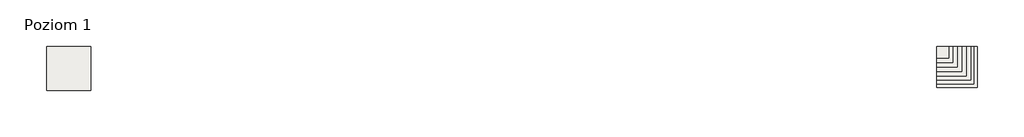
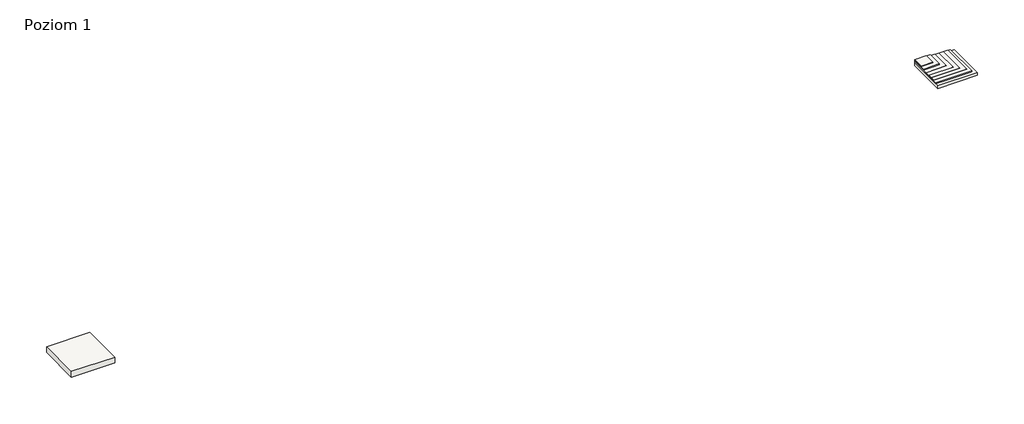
# One storey: 2 roofs.
"""IFC4 building model written with IfcOpenShell, lengths in millimetres."""

from ifc_helpers import new_model, si_unit, frame, origin, origin_with_axes, place, context, project, spatial, polyline, outline, extrude, element, save

model = new_model("IFC4")

# Units and contexts
model_context = context("Model", 3, world=origin())
ifc_project = project(units=[si_unit("LENGTHUNIT", "METRE", prefix="MILLI")], contexts=[model_context])

# Site, building, storey
site = spatial("IfcSite", under=ifc_project)
building = spatial("IfcBuilding", under=site)
storey = spatial("IfcBuildingStorey", under=building, Name="Poziom 1", Elevation=0.0)

# Roofs
placement = place(None, origin())
element("IfcRoof", 1, ObjectType="Dachy zielone w uprawie ekstensywnej – Atus CRICKET 20/1000 - układ tradycyjny", at=placement, inside=storey, context=model_context, shape_type="SweptSolid", body=[
    extrude(outline(polyline([(-16494.8444454, -525.5470033), (-13494.8444454, -525.5470033), (-13494.8444454, -3525.5470033), (-16494.8444454, -3525.5470033), (-16494.8444454, -525.5470033)])), origin_with_axes(), (0.0, 0.0, 1.0), 431.0),
])
element("IfcRoof", 2, ObjectType="Dachy zielone w uprawie ekstensywnej – Atus CRICKET 20/1000 - układ tradycyjny", at=placement, inside=storey, context=model_context, shape_type="SweptSolid", body=[
    extrude(outline(polyline([(43905.1555546, -525.5470033), (44705.1555546, -525.5470033), (44705.1555546, -1325.5470033), (43905.1555546, -1325.5470033), (43905.1555546, -525.5470033)])), frame((0.0, 0.0, 406.0), z_axis=(0.0, 0.0, 1.0), x_axis=(1.0, 0.0, 0.0)), (0.0, 0.0, 1.0), 25.0),
    extrude(outline(polyline([(43905.1555546, -525.5470033), (45005.1555546, -525.5470033), (45005.1555546, -1625.5470033), (43905.1555546, -1625.5470033), (43905.1555546, -525.5470033)])), frame((0.0, 0.0, 326.0), z_axis=(0.0, 0.0, 1.0), x_axis=(1.0, 0.0, 0.0)), (0.0, 0.0, 1.0), 80.0),
    extrude(outline(polyline([(43905.1555546, -525.5470033), (45305.1555546, -525.5470033), (45305.1555546, -1925.5470033), (43905.1555546, -1925.5470033), (43905.1555546, -525.5470033)])), frame((0.0, 0.0, 325.0), z_axis=(0.0, 0.0, 1.0), x_axis=(1.0, 0.0, 0.0)), (0.0, 0.0, 1.0), 1.0),
    extrude(outline(polyline([(43905.1555546, -525.5470033), (45605.1555546, -525.5470033), (45605.1555546, -2225.5470033), (43905.1555546, -2225.5470033), (43905.1555546, -525.5470033)])), frame((0.0, 0.0, 305.0), z_axis=(0.0, 0.0, 1.0), x_axis=(1.0, 0.0, 0.0)), (0.0, 0.0, 1.0), 20.0),
    extrude(outline(polyline([(43905.1555546, -525.5470033), (45905.1555546, -525.5470033), (45905.1555546, -2525.5470033), (43905.1555546, -2525.5470033), (43905.1555546, -525.5470033)])), frame((0.0, 0.0, 302.0), z_axis=(0.0, 0.0, 1.0), x_axis=(1.0, 0.0, 0.0)), (0.0, 0.0, 1.0), 3.0),
    extrude(outline(polyline([(43905.1555546, -525.5470033), (46205.1555546, -525.5470033), (46205.1555546, -2825.5470033), (43905.1555546, -2825.5470033), (43905.1555546, -525.5470033)])), frame((0.0, 0.0, 300.0), z_axis=(0.0, 0.0, 1.0), x_axis=(1.0, 0.0, 0.0)), (0.0, 0.0, 1.0), 2.0),
    extrude(outline(polyline([(43905.1555546, -525.5470033), (46405.1555546, -525.5470033), (46405.1555546, -3090.4398026), (43905.1555546, -3090.4398026), (43905.1555546, -525.5470033)])), frame((0.0, 0.0, 200.0), z_axis=(0.0, 0.0, 1.0), x_axis=(1.0, 0.0, 0.0)), (0.0, 0.0, 1.0), 100.0),
    extrude(outline(polyline([(43905.1555546, -525.5470033), (46665.1555546, -525.5470033), (46665.1555546, -3325.5470033), (43905.1555546, -3325.5470033), (43905.1555546, -525.5470033)])), origin_with_axes(), (0.0, 0.0, 1.0), 200.0),
])

save(model, "model.ifc")
